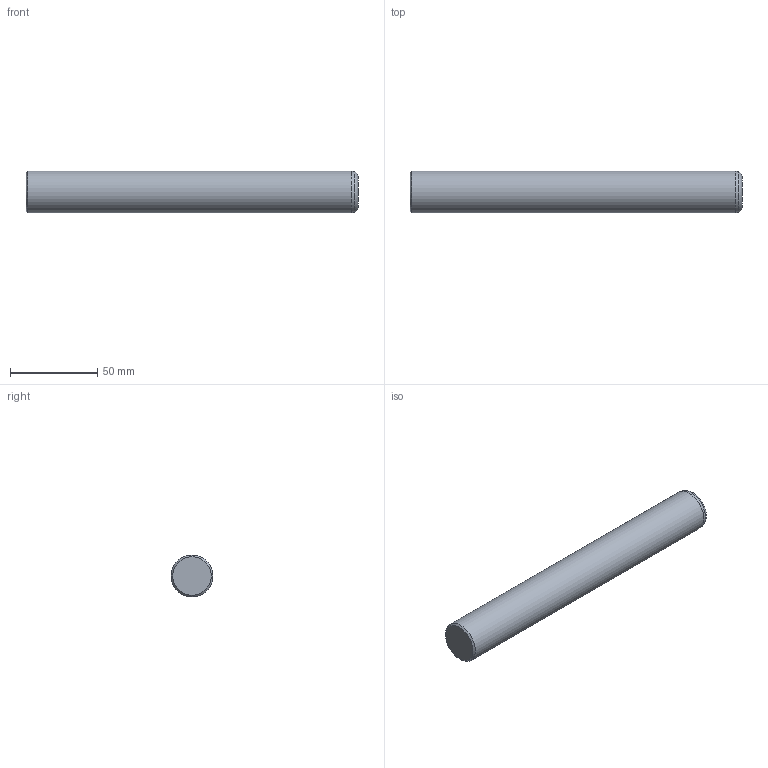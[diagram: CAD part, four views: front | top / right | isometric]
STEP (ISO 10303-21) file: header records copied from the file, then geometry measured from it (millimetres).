
FILE_DESCRIPTION(/* description */ ('Impex Ready, www.impex-ready.pl'),/* implementation_level */ '2;1');
FILE_NAME(/* name */ 'C:\Users\VIKKY\Nextcloud\SM\projekt 10 - części na stronę internetową\Pliki_3D_new\256 CIS Słup\256 CIS_STEP\CIS24190.ipt.step',/* time_stamp */ '2021-12-20T12:41:30+01:00',/* author */ ('SM'),/* organization */ (''),/* preprocessor_version */ 'ST-DEVELOPER v18.1',/* originating_system */ 'Autodesk Inventor 2021',/* authorisation */ '');
FILE_SCHEMA (('AUTOMOTIVE_DESIGN { 1 0 10303 214 3 1 1 }'));
Length unit declared in the file: millimetre
Products named in the file (1): CIS24190
Bounding box: 190 x 24 x 24 mm (x, y, z)
Volume: 85700 mm3; surface area: 15057.5 mm2
Topology: 1 solids, 1 shells, 6 faces, 12 edges, 8 vertices
Faces by surface type: cone 2, plane 2, torus 1, cylinder 1
Full cylindrical faces by diameter (mm): 24 x1
Entity records: 239 total; most frequent: DIRECTION 35, CARTESIAN_POINT 27, ORIENTED_EDGE 24, AXIS2_PLACEMENT_3D 16, EDGE_CURVE 12, CIRCLE 9, VERTEX_POINT 8, STYLED_ITEM 7
